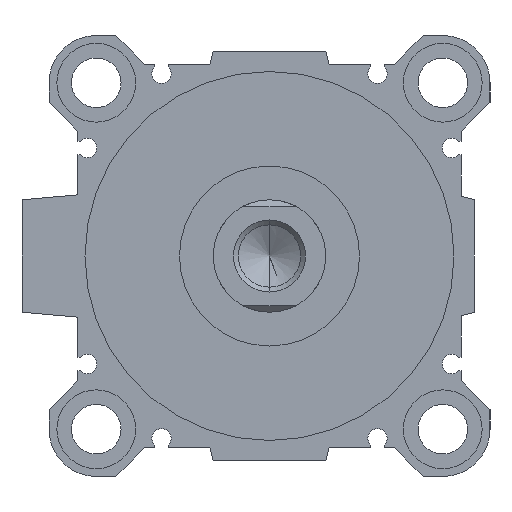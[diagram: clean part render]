
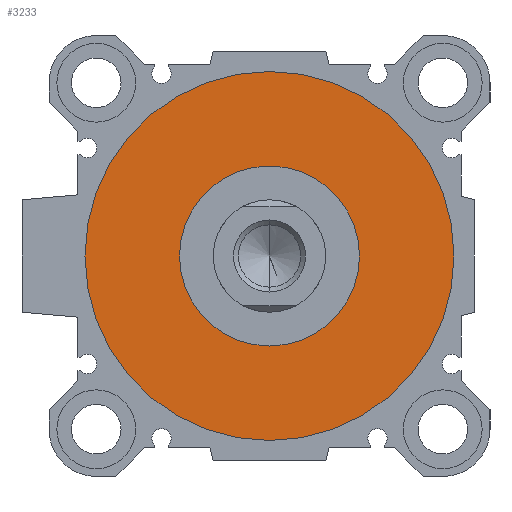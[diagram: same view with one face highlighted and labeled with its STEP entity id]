
A CAD part, left-side view. The second image highlights one B-rep face of the part: STEP entity #3233.
In plain terms, the highlighted planar face has unit normal (-1, 0, 0).
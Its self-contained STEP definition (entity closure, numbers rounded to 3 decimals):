
#51 = EDGE_CURVE ( 'NONE', #2257, #3547, #1838, .T. ) ;
#69 = DIRECTION ( 'NONE',  ( 1., 0., 0. ) ) ;
#93 = CIRCLE ( 'NONE', #792, 20. ) ;
#94 = ORIENTED_EDGE ( 'NONE', *, *, #51, .F. ) ;
#413 = CARTESIAN_POINT ( 'NONE',  ( 5., 0., 41. ) ) ;
#617 = DIRECTION ( 'NONE',  ( 0., 0., -1. ) ) ;
#792 = AXIS2_PLACEMENT_3D ( 'NONE', #2391, #4488, #4042 ) ;
#798 = AXIS2_PLACEMENT_3D ( 'NONE', #2912, #4687, #3723 ) ;
#880 = EDGE_CURVE ( 'NONE', #3547, #2257, #4119, .T. ) ;
#952 = ORIENTED_EDGE ( 'NONE', *, *, #2758, .T. ) ;
#1023 = CARTESIAN_POINT ( 'NONE',  ( 5., 0., 0. ) ) ;
#1030 = CARTESIAN_POINT ( 'NONE',  ( 5., 0., -20. ) ) ;
#1108 = EDGE_LOOP ( 'NONE', ( #94, #3461 ) ) ;
#1213 = ORIENTED_EDGE ( 'NONE', *, *, #3328, .T. ) ;
#1491 = CARTESIAN_POINT ( 'NONE',  ( 5., 0., 0. ) ) ;
#1705 = CIRCLE ( 'NONE', #4151, 20. ) ;
#1838 = CIRCLE ( 'NONE', #5164, 41. ) ;
#1933 = FACE_BOUND ( 'NONE', #3536, .T. ) ;
#1966 = PLANE ( 'NONE',  #2674 ) ;
#2055 = FACE_OUTER_BOUND ( 'NONE', #1108, .T. ) ;
#2257 = VERTEX_POINT ( 'NONE', #413 ) ;
#2282 = VERTEX_POINT ( 'NONE', #1030 ) ;
#2391 = CARTESIAN_POINT ( 'NONE',  ( 5., 0., 0. ) ) ;
#2649 = CARTESIAN_POINT ( 'NONE',  ( 5., 0., -41. ) ) ;
#2674 = AXIS2_PLACEMENT_3D ( 'NONE', #1491, #2767, #3166 ) ;
#2758 = EDGE_CURVE ( 'NONE', #5070, #2282, #93, .T. ) ;
#2767 = DIRECTION ( 'NONE',  ( 1., 0., 0. ) ) ;
#2912 = CARTESIAN_POINT ( 'NONE',  ( 5., 0., 0. ) ) ;
#3166 = DIRECTION ( 'NONE',  ( 0., 1., 0. ) ) ;
#3233 = ADVANCED_FACE ( 'NONE', ( #2055, #1933 ), #1966, .F. ) ;
#3328 = EDGE_CURVE ( 'NONE', #2282, #5070, #1705, .T. ) ;
#3337 = CARTESIAN_POINT ( 'NONE',  ( 5., 0., 0. ) ) ;
#3414 = DIRECTION ( 'NONE',  ( 0., 0., -1. ) ) ;
#3461 = ORIENTED_EDGE ( 'NONE', *, *, #880, .F. ) ;
#3536 = EDGE_LOOP ( 'NONE', ( #952, #1213 ) ) ;
#3547 = VERTEX_POINT ( 'NONE', #2649 ) ;
#3723 = DIRECTION ( 'NONE',  ( 0., 0., -1. ) ) ;
#4042 = DIRECTION ( 'NONE',  ( 0., 0., -1. ) ) ;
#4087 = CARTESIAN_POINT ( 'NONE',  ( 5., 0., 20. ) ) ;
#4119 = CIRCLE ( 'NONE', #798, 41. ) ;
#4151 = AXIS2_PLACEMENT_3D ( 'NONE', #3337, #69, #3414 ) ;
#4488 = DIRECTION ( 'NONE',  ( 1., 0., 0. ) ) ;
#4687 = DIRECTION ( 'NONE',  ( 1., 0., 0. ) ) ;
#4728 = DIRECTION ( 'NONE',  ( 1., 0., 0. ) ) ;
#5070 = VERTEX_POINT ( 'NONE', #4087 ) ;
#5164 = AXIS2_PLACEMENT_3D ( 'NONE', #1023, #4728, #617 ) ;
